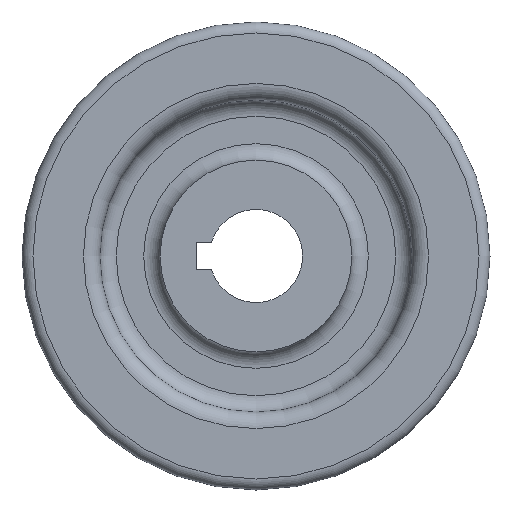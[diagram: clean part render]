
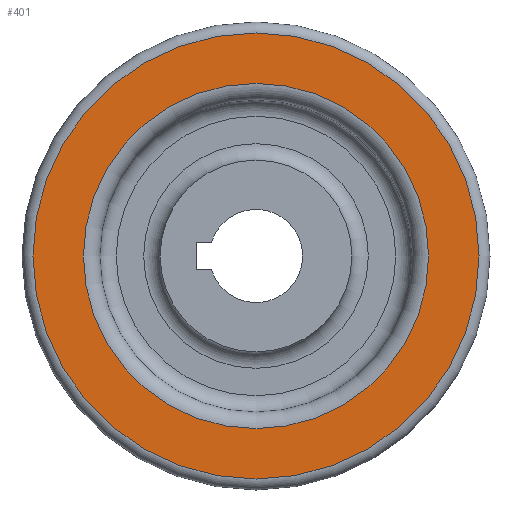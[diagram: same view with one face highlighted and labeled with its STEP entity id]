
A CAD part, left-side view. The second image highlights one B-rep face of the part: STEP entity #401.
In plain terms, the highlighted planar face has unit normal (-1, 0, 0).
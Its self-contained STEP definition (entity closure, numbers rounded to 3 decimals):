
#20=FACE_BOUND('',#99,.T.);
#24=PLANE('',#453);
#73=FACE_OUTER_BOUND('',#98,.T.);
#98=EDGE_LOOP('',(#276));
#99=EDGE_LOOP('',(#277));
#125=CIRCLE('',#448,31.5);
#129=CIRCLE('',#454,40.7);
#167=VERTEX_POINT('',#669);
#170=VERTEX_POINT('',#679);
#207=EDGE_CURVE('',#167,#167,#125,.T.);
#212=EDGE_CURVE('',#170,#170,#129,.T.);
#276=ORIENTED_EDGE('',*,*,#212,.F.);
#277=ORIENTED_EDGE('',*,*,#207,.F.);
#401=ADVANCED_FACE('',(#73,#20),#24,.T.);
#448=AXIS2_PLACEMENT_3D('',#670,#518,#519);
#453=AXIS2_PLACEMENT_3D('',#678,#529,#530);
#454=AXIS2_PLACEMENT_3D('',#680,#531,#532);
#518=DIRECTION('center_axis',(-1.,0.,0.));
#519=DIRECTION('ref_axis',(0.,0.,-1.));
#529=DIRECTION('center_axis',(-1.,0.,0.));
#530=DIRECTION('ref_axis',(0.,0.,1.));
#531=DIRECTION('center_axis',(1.,0.,0.));
#532=DIRECTION('ref_axis',(0.,-1.,0.));
#669=CARTESIAN_POINT('',(-9.5,0.,31.5));
#670=CARTESIAN_POINT('Origin',(-9.5,0.,0.));
#678=CARTESIAN_POINT('Origin',(-9.5,21.35,0.));
#679=CARTESIAN_POINT('',(-9.5,0.,40.7));
#680=CARTESIAN_POINT('Origin',(-9.5,0.,0.));
